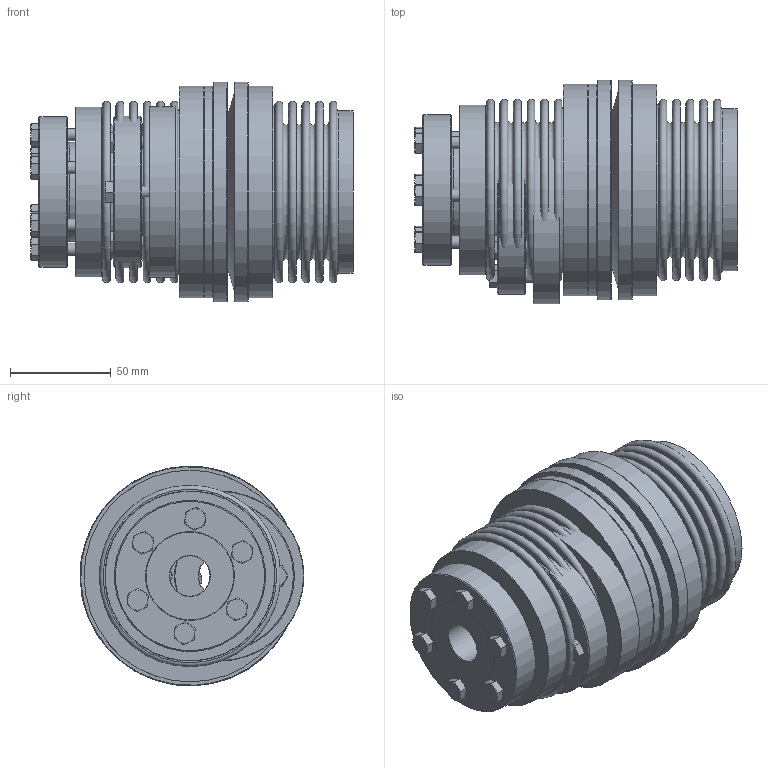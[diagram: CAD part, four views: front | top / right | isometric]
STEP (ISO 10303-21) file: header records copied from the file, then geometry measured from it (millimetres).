
FILE_DESCRIPTION( ( 'Unknown' ), '1' );
FILE_NAME( 'C:/Dokumente und Einstellungen/SKarpstein/Desktop/Korrigierte 3D Modelle/KBK-B-AI/KBK-BAI-200-123.stp', 'Unknown', ( 'Unknown' ), ( 'Unknown' ), 'XStep 1.0', 'Unknown', ' ' );
FILE_SCHEMA( ( 'automotive_design' ) );
Length unit declared in the file: millimetre
Products named in the file (12): Assem1; Assem2; Hex Screw GradeC_DIN_ISO 4018 - M6 x 30-NN_1; BA200_Standard; DR200_Standard; Stellring 200; Druckring 200; KBK L-I-200 Grundkörper; Konusbuchse 200; din_en_24017_m6x25_0; Flansch BK200; BL200_Standard_0
Bounding box: 159.8 x 111.07 x 109 mm (x, y, z)
Volume: 1034148.9 mm3; surface area: 457980.6 mm2
Topology: 38 solids, 38 shells, 813 faces, 1693 edges, 1077 vertices
Faces by surface type: plane 353, cone 232, cylinder 167, torus 61
Full cylindrical faces by diameter (mm): 3.242 x6, 4.917 x18, 5 x18, 5.2 x12, 6 x20, 6.5 x12, 6.6 x18, 8.8 x7, 20 x7, 46 x2, 47 x2, 49.29 x3, 50 x4, 60 x2, 62 x2, 64 x2, 65 x2, 66 x4, 75 x3, 77 x2, 79.2 x4, 80.4 x4, 84.5 x3, 90 x2, 98 x2, 105 x4, 109 x2
Entity records: 6487 total; most frequent: CARTESIAN_POINT 1349, DIRECTION 1082, ORIENTED_EDGE 676, AXIS2_PLACEMENT_3D 517, EDGE_LOOP 482, EDGE_CURVE 338, FACE_OUTER_BOUND 336, VERTEX_POINT 290
